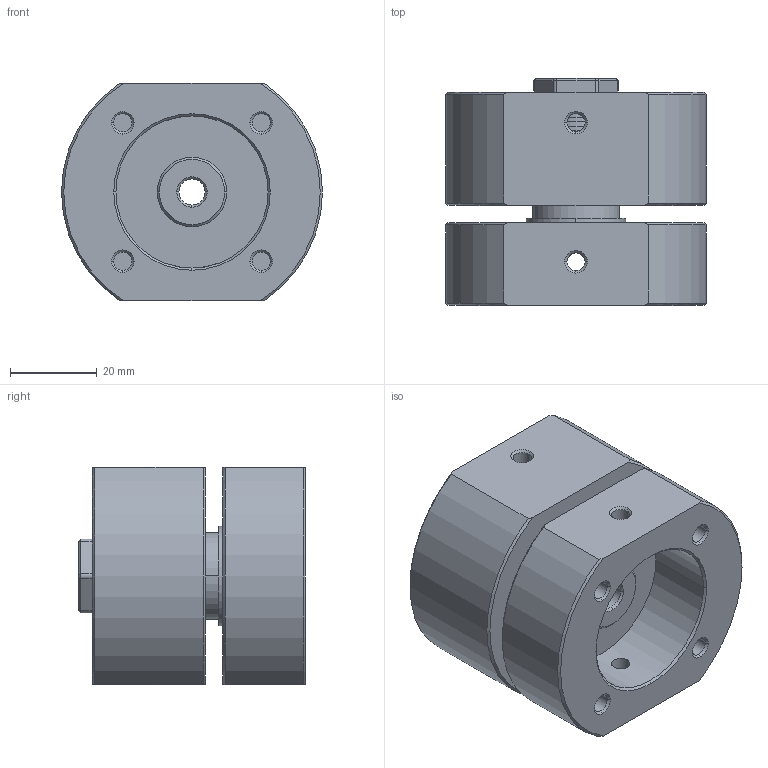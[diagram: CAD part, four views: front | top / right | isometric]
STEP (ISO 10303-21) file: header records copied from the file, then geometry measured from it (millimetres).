
FILE_DESCRIPTION (( 'STEP AP203' ), '1' );
FILE_NAME ('XG11-138.STEP', '2025-12-24T07:02:30', ( '微软用户' ), ( '微软中国' ), 'SwSTEP 2.0', 'SolidWorks 2024', '' );
FILE_SCHEMA (( 'CONFIG_CONTROL_DESIGN' ));
Length unit declared in the file: millimetre
Products named in the file (1): XG11-138
Bounding box: 60 x 52.2 x 50 mm (x, y, z)
Volume: 90833.6 mm3; surface area: 29532.8 mm2
Topology: 10 solids, 11 shells, 303 faces, 699 edges, 437 vertices
Faces by surface type: cylinder 105, cone 104, plane 90, bspline 4
Entity records: 10171 total; most frequent: CARTESIAN_POINT 3059, DIRECTION 1548, ORIENTED_EDGE 1398, EDGE_CURVE 699, AXIS2_PLACEMENT_3D 628, VERTEX_POINT 437, EDGE_LOOP 352, CIRCLE 328
